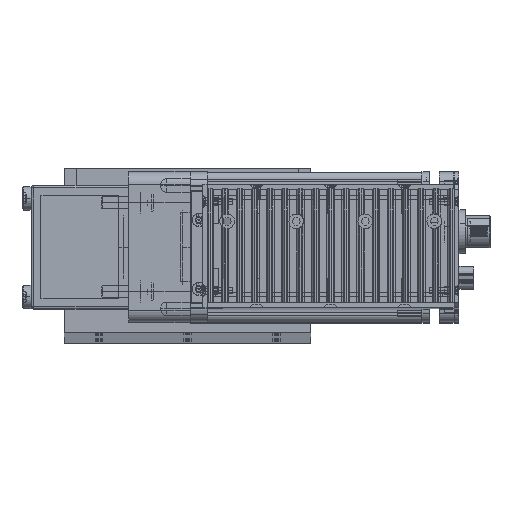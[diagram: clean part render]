
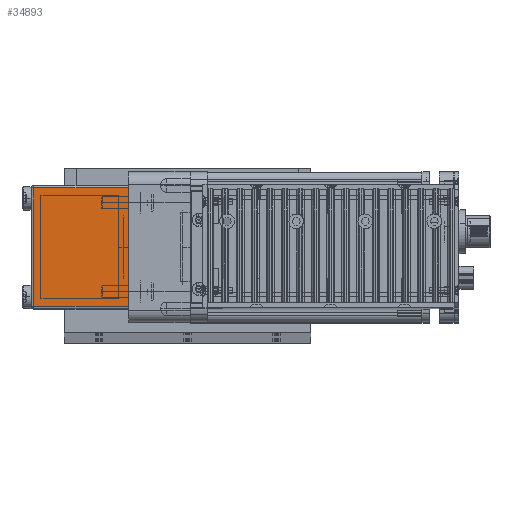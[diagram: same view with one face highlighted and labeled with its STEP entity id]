
A CAD part, top view. The second image highlights one B-rep face of the part: STEP entity #34893.
In plain terms, the highlighted planar face has unit normal (0, 0, 1) as drawn and (1, 0, 0) by its records, which use the part's own axes.
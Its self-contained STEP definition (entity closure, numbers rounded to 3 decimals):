
#353 = EDGE_CURVE ( 'NONE', #34842, #34798, #45502, .T. ) ;
#13246 = VECTOR ( 'NONE', #13491, 1000. ) ;
#13247 = CARTESIAN_POINT ( 'NONE',  ( 62., -25., 0. ) ) ;
#13248 = LINE ( 'NONE', #13247, #13246 ) ;
#13491 = DIRECTION ( 'NONE',  ( 0., 1., 0. ) ) ;
#13505 = CARTESIAN_POINT ( 'NONE',  ( 62., -25., 38.5 ) ) ;
#13506 = LINE ( 'NONE', #13505, #13743 ) ;
#13735 = DIRECTION ( 'NONE',  ( 0., 1., 0. ) ) ;
#13743 = VECTOR ( 'NONE', #13735, 1000. ) ;
#14241 = DIRECTION ( 'NONE',  ( 0., 0., -1. ) ) ;
#14242 = VECTOR ( 'NONE', #14241, 1000. ) ;
#14243 = PLANE ( 'NONE',  #14261 ) ;
#14248 = CARTESIAN_POINT ( 'NONE',  ( 62., 24., 38.5 ) ) ;
#14249 = DIRECTION ( 'NONE',  ( 0., -1., 0. ) ) ;
#14250 = CARTESIAN_POINT ( 'NONE',  ( 62., 25., 39.5 ) ) ;
#14256 = LINE ( 'NONE', #14259, #14242 ) ;
#14259 = CARTESIAN_POINT ( 'NONE',  ( 62., 24., 39.5 ) ) ;
#14260 = DIRECTION ( 'NONE',  ( -1., 0., 0. ) ) ;
#14261 = AXIS2_PLACEMENT_3D ( 'NONE', #14250, #14260, #14249 ) ;
#14313 = CARTESIAN_POINT ( 'NONE',  ( 62., 24., 0. ) ) ;
#14318 = CARTESIAN_POINT ( 'NONE',  ( 62., -24., 38.5 ) ) ;
#14374 = CARTESIAN_POINT ( 'NONE',  ( 62., -24., 0. ) ) ;
#14471 = FACE_OUTER_BOUND ( 'NONE', #34885, .T. ) ;
#34770 = VERTEX_POINT ( 'NONE', #14248 ) ;
#34772 = EDGE_CURVE ( 'NONE', #34770, #34796, #14256, .T. ) ;
#34796 = VERTEX_POINT ( 'NONE', #14313 ) ;
#34798 = VERTEX_POINT ( 'NONE', #14318 ) ;
#34842 = VERTEX_POINT ( 'NONE', #14374 ) ;
#34885 = EDGE_LOOP ( 'NONE', ( #34886, #34896, #34895, #34898 ) ) ;
#34886 = ORIENTED_EDGE ( 'NONE', *, *, #353, .F. ) ;
#34892 = EDGE_CURVE ( 'NONE', #34842, #34796, #13248, .T. ) ;
#34893 = ADVANCED_FACE ( 'NONE', ( #14471 ), #14243, .F. ) ;
#34894 = EDGE_CURVE ( 'NONE', #34798, #34770, #13506, .T. ) ;
#34895 = ORIENTED_EDGE ( 'NONE', *, *, #34772, .F. ) ;
#34896 = ORIENTED_EDGE ( 'NONE', *, *, #34892, .T. ) ;
#34898 = ORIENTED_EDGE ( 'NONE', *, *, #34894, .F. ) ;
#45481 = DIRECTION ( 'NONE',  ( 0., 0., 1. ) ) ;
#45482 = VECTOR ( 'NONE', #45481, 1000. ) ;
#45484 = CARTESIAN_POINT ( 'NONE',  ( 62., -24., 39.5 ) ) ;
#45502 = LINE ( 'NONE', #45484, #45482 ) ;
